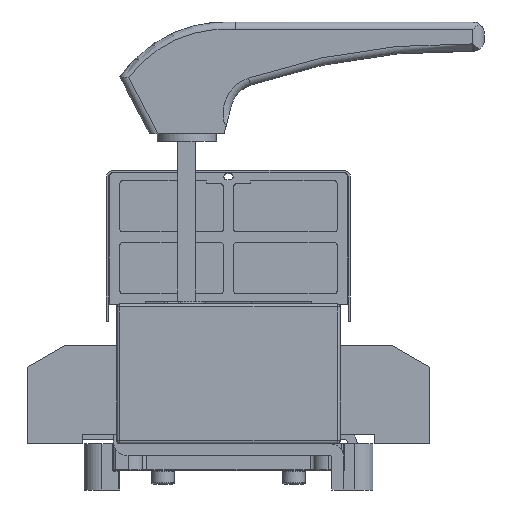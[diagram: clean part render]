
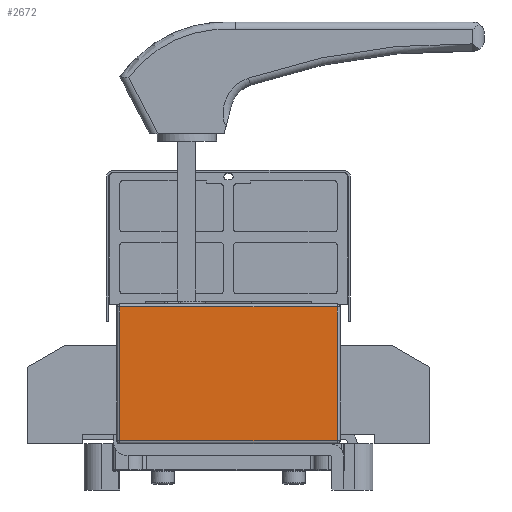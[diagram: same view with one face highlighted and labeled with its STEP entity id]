
A CAD part, left-side view. The second image highlights one B-rep face of the part: STEP entity #2672.
In plain terms, the highlighted planar face has unit normal (-1, 0, 0).
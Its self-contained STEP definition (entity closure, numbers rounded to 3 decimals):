
#1033=FACE_OUTER_BOUND('',#6086,.T.);
#2672=ADVANCED_FACE('',(#1033),#4465,.F.);
#4465=PLANE('',#33909);
#6086=EDGE_LOOP('',(#15980,#15981,#15982,#15983));
#8845=LINE('',#48216,#12215);
#8846=LINE('',#48219,#12216);
#8847=LINE('',#48221,#12217);
#8848=LINE('',#48223,#12218);
#12215=VECTOR('',#38020,1.);
#12216=VECTOR('',#38021,1.);
#12217=VECTOR('',#38022,1.);
#12218=VECTOR('',#38023,1.);
#15980=ORIENTED_EDGE('',*,*,#28519,.T.);
#15981=ORIENTED_EDGE('',*,*,#28520,.T.);
#15982=ORIENTED_EDGE('',*,*,#28521,.T.);
#15983=ORIENTED_EDGE('',*,*,#28522,.T.);
#25236=VERTEX_POINT('',#48217);
#25237=VERTEX_POINT('',#48218);
#25238=VERTEX_POINT('',#48220);
#25239=VERTEX_POINT('',#48222);
#28519=EDGE_CURVE('',#25236,#25237,#8845,.T.);
#28520=EDGE_CURVE('',#25237,#25238,#8846,.T.);
#28521=EDGE_CURVE('',#25238,#25239,#8847,.T.);
#28522=EDGE_CURVE('',#25239,#25236,#8848,.T.);
#33909=AXIS2_PLACEMENT_3D('',#48224,#38024,#38025);
#38020=DIRECTION('',(0.,0.,-1.));
#38021=DIRECTION('',(0.,-1.,0.));
#38022=DIRECTION('',(0.,0.,1.));
#38023=DIRECTION('',(0.,1.,0.));
#38024=DIRECTION('',(1.,0.,0.));
#38025=DIRECTION('',(0.,1.,0.));
#48216=CARTESIAN_POINT('',(-150.,73.,94.));
#48217=CARTESIAN_POINT('',(-150.,73.,92.));
#48218=CARTESIAN_POINT('',(-150.,73.,2.));
#48219=CARTESIAN_POINT('',(-150.,75.,2.));
#48220=CARTESIAN_POINT('',(-150.,-73.,2.));
#48221=CARTESIAN_POINT('',(-150.,-73.,94.));
#48222=CARTESIAN_POINT('',(-150.,-73.,92.));
#48223=CARTESIAN_POINT('',(-150.,73.,92.));
#48224=CARTESIAN_POINT('',(-150.,75.,94.));
